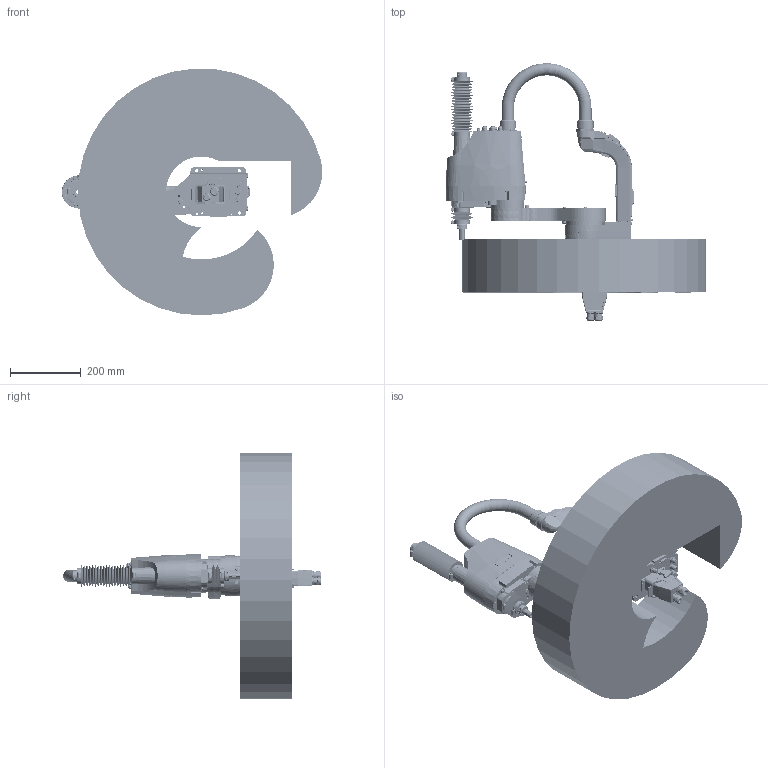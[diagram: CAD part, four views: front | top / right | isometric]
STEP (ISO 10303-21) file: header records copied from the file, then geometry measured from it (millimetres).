
FILE_DESCRIPTION( ( 'STEP AP214' ), '1' );
FILE_NAME( 'C:/Users/9607552/Desktop/GX4-A/GX4-A351CB-R-SW.stp', '2023-04-07T05:00:37', ( '' ), ( '' ), ' ', 'PARTsolutions', ' ' );
FILE_SCHEMA( ( 'AUTOMOTIVE_DESIGN { 1 0 10303 214 1 1 1 1 }' ) );
Length unit declared in the file: millimetre
Products named in the file (10): GX4-A351CB-R-SW; _A251CBbasesb; _A351S-R_J1_ARM; _A251S-a; _A351S_CONDUIT; _A251C; _A251C-long; _A251C-short; _Straight; _GX4-34_WS
Assembly tree (9 placements, depth 2):
  GX4-A351CB-R-SW
    _A251CBbasesb
    _A351S-R_J1_ARM
    _A251S-a
    _A351S_CONDUIT
    _A251C
    _A251C-long
    _A251C-short
    _Straight
    _GX4-34_WS
Bounding box: 737.83 x 730.09 x 699.31 mm (x, y, z)
Volume: 51824177.2 mm3; surface area: 2001946.8 mm2
Topology: 9 solids, 9 shells, 4261 faces, 10419 edges, 6768 vertices
Faces by surface type: plane 2462, cylinder 1177, cone 432, torus 103, bspline 86, sphere 1
Full cylindrical faces by diameter (mm): 1 x30, 1.13 x55, 1.18 x55, 2.459 x4, 2.5 x17, 3 x36, 3.2 x3, 3.242 x1, 3.3 x46, 3.4 x32, 3.5 x12, 4 x4, 4.5 x24, 4.8 x4, 4.917 x2, 5 x1, 5.34 x8, 5.4 x14, 5.5 x26, 5.6 x2, 5.68 x4, 5.9 x4, 5.999 x8, 6 x9, 6.7 x4, 6.8 x7, 6.98 x4, 7 x37, 7.1 x4, 7.8 x4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
Entity records: 159759 total; most frequent: CARTESIAN_POINT 30478, DIRECTION 18944, ORIENTED_EDGE 18720, EDGE_CURVE 9360, AXIS2_PLACEMENT_3D 7199, VERTEX_POINT 6659, EDGE_LOOP 5839, FACE_OUTER_BOUND 4937
